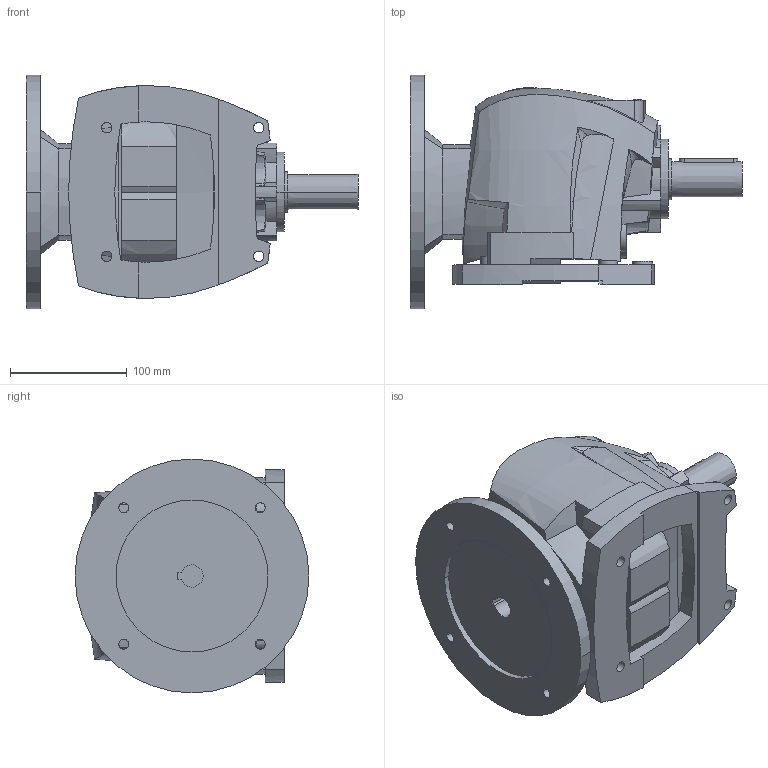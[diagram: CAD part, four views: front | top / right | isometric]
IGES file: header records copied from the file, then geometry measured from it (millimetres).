
Start section:  PTC IGES file: r25_sw_pam80_d2.igs
Global section: file name: r25_sw_pam80_d2.igs; native system: Pro/ENGINEER by Parametric Technology Corporation; preprocessor: 2008230; author: Luca; organization: Unknown; date: 20131216.103523; units: millimetre
Bounding box: 284 x 200 x 200 mm (x, y, z)
Volume: 3819468.9 mm3; surface area: 262086.3 mm2
Topology: 1 solids, 5 shells, 428 faces, 1191 edges, 796 vertices
Faces by surface type: bspline 255, revolution 173
